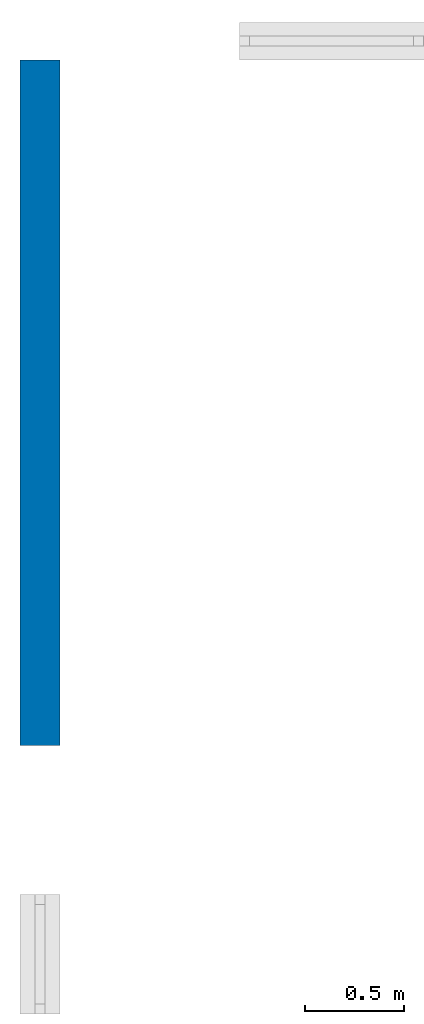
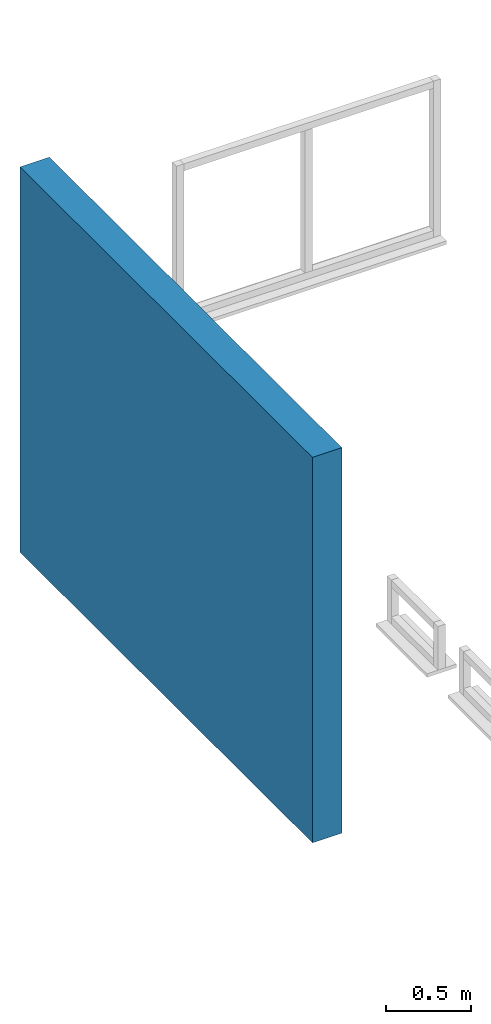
# Not in any storey, part 1 of 22: 1 wall.
"""IFC2X3 model written with IfcOpenShell, lengths in metres."""

from ifc_helpers import new_model, si_unit, frame, origin, place, context, project, faceted_brep, element, save


model = new_model("IFC2X3")

# Units and contexts
model_context = context("Model", 3, precision=1e-06, world=origin())
ifc_project = project(units=[si_unit("LENGTHUNIT", "METRE"), si_unit("PLANEANGLEUNIT", "RADIAN")], contexts=[model_context])

# Wall
placement = place(None, origin())
wall_placement = place(placement, frame((-1.1e-14, 7.020077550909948, -0.199999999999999), z_axis=(0.0, 0.0, 1.0), x_axis=(0.0, 1.0, 0.0)))
element("IfcWall", 1, at=wall_placement, context=model_context, shape_type="Brep", body=[
    faceted_brep([(0.0, 0.0, 2.775), (0.0, 0.2, 2.775), (0.0, 0.2, 0.0), (0.0, 0.0, 0.0), (0.0, 0.2, 2.775), (3.450000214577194, 0.2, 2.775), (3.450000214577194, 0.2, 0.0), (0.0, 0.2, 0.0), (3.450000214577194, 0.2, 2.775), (3.450000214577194, 0.0, 2.775), (3.450000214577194, 0.0, 0.0), (3.450000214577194, 0.2, 0.0), (3.450000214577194, 0.0, 2.775), (0.0, 0.0, 2.775), (0.0, 0.0, 0.0), (3.450000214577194, 0.0, 0.0), (0.0, 0.0, 2.775), (3.450000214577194, 0.0, 2.775), (3.450000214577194, 0.2, 2.775), (0.0, 0.2, 2.775), (0.0, 0.0, 0.0), (0.0, 0.2, 0.0), (3.450000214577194, 0.2, 0.0), (3.450000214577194, 0.0, 0.0)], [[[0, 1, 2, 3]], [[4, 5, 6, 7]], [[8, 9, 10, 11]], [[12, 13, 14, 15]], [[16, 17, 18, 19]], [[20, 21, 22, 23]]]),
])

save(model, "model.ifc")
